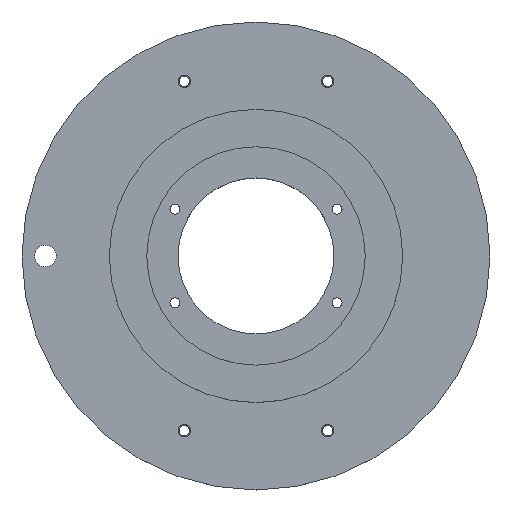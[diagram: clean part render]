
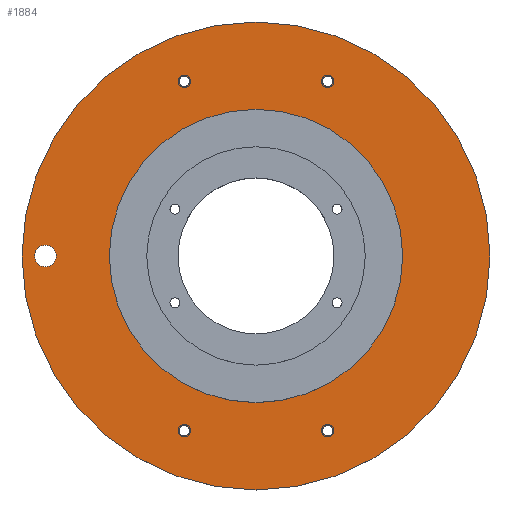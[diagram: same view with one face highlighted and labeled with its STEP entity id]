
A CAD part, top view. The second image highlights one B-rep face of the part: STEP entity #1884.
In plain terms, the highlighted planar face has unit normal (0, 0, 1).
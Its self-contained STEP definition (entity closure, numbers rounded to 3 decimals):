
#655=CARTESIAN_POINT('',(0.,0.,-13.));
#656=DIRECTION('',(0.,0.,1.));
#657=DIRECTION('',(0.,1.,0.));
#658=AXIS2_PLACEMENT_3D('',#655,#656,#657);
#663=CARTESIAN_POINT('',(0.,0.,-13.));
#664=DIRECTION('',(0.,0.,-1.));
#665=DIRECTION('',(0.,1.,0.));
#666=AXIS2_PLACEMENT_3D('',#663,#664,#665);
#671=CARTESIAN_POINT('',(-23.,-56.,-13.));
#672=DIRECTION('',(0.,0.,-1.));
#673=DIRECTION('',(1.,0.,0.));
#674=AXIS2_PLACEMENT_3D('',#671,#672,#673);
#679=CARTESIAN_POINT('',(-23.,-56.,-13.));
#680=DIRECTION('',(0.,0.,-1.));
#681=DIRECTION('',(-1.,0.,0.));
#682=AXIS2_PLACEMENT_3D('',#679,#680,#681);
#687=CARTESIAN_POINT('',(-23.,56.,-13.));
#688=DIRECTION('',(0.,0.,-1.));
#689=DIRECTION('',(1.,0.,0.));
#690=AXIS2_PLACEMENT_3D('',#687,#688,#689);
#695=CARTESIAN_POINT('',(-23.,56.,-13.));
#696=DIRECTION('',(0.,0.,-1.));
#697=DIRECTION('',(-1.,0.,0.));
#698=AXIS2_PLACEMENT_3D('',#695,#696,#697);
#703=CARTESIAN_POINT('',(23.,-56.,-13.));
#704=DIRECTION('',(0.,0.,-1.));
#705=DIRECTION('',(1.,0.,0.));
#706=AXIS2_PLACEMENT_3D('',#703,#704,#705);
#711=CARTESIAN_POINT('',(23.,-56.,-13.));
#712=DIRECTION('',(0.,0.,-1.));
#713=DIRECTION('',(-1.,0.,0.));
#714=AXIS2_PLACEMENT_3D('',#711,#712,#713);
#719=CARTESIAN_POINT('',(23.,56.,-13.));
#720=DIRECTION('',(0.,0.,-1.));
#721=DIRECTION('',(1.,0.,0.));
#722=AXIS2_PLACEMENT_3D('',#719,#720,#721);
#727=CARTESIAN_POINT('',(23.,56.,-13.));
#728=DIRECTION('',(0.,0.,-1.));
#729=DIRECTION('',(-1.,0.,0.));
#730=AXIS2_PLACEMENT_3D('',#727,#728,#729);
#735=CARTESIAN_POINT('',(-67.5,0.,-13.));
#736=DIRECTION('',(0.,0.,-1.));
#737=DIRECTION('',(0.,1.,0.));
#738=AXIS2_PLACEMENT_3D('',#735,#736,#737);
#743=CARTESIAN_POINT('',(-67.5,0.,-13.));
#744=DIRECTION('',(0.,0.,-1.));
#745=DIRECTION('',(0.,-1.,0.));
#746=AXIS2_PLACEMENT_3D('',#743,#744,#745);
#759=CARTESIAN_POINT('',(0.,0.,-13.));
#760=DIRECTION('',(0.,0.,-1.));
#761=DIRECTION('',(0.,1.,0.));
#762=AXIS2_PLACEMENT_3D('',#759,#760,#761);
#812=CARTESIAN_POINT('',(0.,0.,-13.));
#813=DIRECTION('',(0.,0.,-1.));
#814=DIRECTION('',(0.,-1.,0.));
#815=AXIS2_PLACEMENT_3D('',#812,#813,#814);
#1437=CARTESIAN_POINT('',(-21.35,-56.,-13.));
#1439=VERTEX_POINT('',#1437);
#1441=CARTESIAN_POINT('',(-24.65,-56.,-13.));
#1443=VERTEX_POINT('',#1441);
#1462=CARTESIAN_POINT('',(0.,47.,-13.));
#1464=VERTEX_POINT('',#1462);
#1466=CARTESIAN_POINT('',(0.,-47.,-13.));
#1468=VERTEX_POINT('',#1466);
#1473=CARTESIAN_POINT('',(0.,75.,-13.));
#1474=CARTESIAN_POINT('',(0.,-75.,-13.));
#1475=VERTEX_POINT('',#1473);
#1476=VERTEX_POINT('',#1474);
#1553=CARTESIAN_POINT('',(-21.35,56.,-13.));
#1554=CARTESIAN_POINT('',(-24.65,56.,-13.));
#1555=VERTEX_POINT('',#1553);
#1556=VERTEX_POINT('',#1554);
#1561=CARTESIAN_POINT('',(24.65,-56.,-13.));
#1562=CARTESIAN_POINT('',(21.35,-56.,-13.));
#1563=VERTEX_POINT('',#1561);
#1564=VERTEX_POINT('',#1562);
#1569=CARTESIAN_POINT('',(24.65,56.,-13.));
#1570=CARTESIAN_POINT('',(21.35,56.,-13.));
#1571=VERTEX_POINT('',#1569);
#1572=VERTEX_POINT('',#1570);
#1621=CARTESIAN_POINT('',(-67.5,3.5,-13.));
#1622=CARTESIAN_POINT('',(-67.5,-3.5,-13.));
#1623=VERTEX_POINT('',#1621);
#1624=VERTEX_POINT('',#1622);
#1839=CARTESIAN_POINT('',(0.,0.,-13.));
#1840=DIRECTION('',(0.,0.,1.));
#1841=DIRECTION('',(0.,1.,0.));
#1842=AXIS2_PLACEMENT_3D('',#1839,#1840,#1841);
#1843=PLANE('',#1842);
#1845=ORIENTED_EDGE('',*,*,#1844,.T.);
#1847=ORIENTED_EDGE('',*,*,#1846,.T.);
#1848=EDGE_LOOP('',(#1845,#1847));
#1849=FACE_OUTER_BOUND('',#1848,.F.);
#1850=ORIENTED_EDGE('',*,*,#1834,.T.);
#1851=ORIENTED_EDGE('',*,*,#1818,.F.);
#1852=EDGE_LOOP('',(#1850,#1851));
#1853=FACE_BOUND('',#1852,.F.);
#1855=ORIENTED_EDGE('',*,*,#1854,.F.);
#1857=ORIENTED_EDGE('',*,*,#1856,.F.);
#1858=EDGE_LOOP('',(#1855,#1857));
#1859=FACE_BOUND('',#1858,.F.);
#1861=ORIENTED_EDGE('',*,*,#1860,.F.);
#1863=ORIENTED_EDGE('',*,*,#1862,.F.);
#1864=EDGE_LOOP('',(#1861,#1863));
#1865=FACE_BOUND('',#1864,.F.);
#1867=ORIENTED_EDGE('',*,*,#1866,.F.);
#1869=ORIENTED_EDGE('',*,*,#1868,.F.);
#1870=EDGE_LOOP('',(#1867,#1869));
#1871=FACE_BOUND('',#1870,.F.);
#1873=ORIENTED_EDGE('',*,*,#1872,.F.);
#1875=ORIENTED_EDGE('',*,*,#1874,.F.);
#1876=EDGE_LOOP('',(#1873,#1875));
#1877=FACE_BOUND('',#1876,.F.);
#1879=ORIENTED_EDGE('',*,*,#1878,.F.);
#1881=ORIENTED_EDGE('',*,*,#1880,.F.);
#1882=EDGE_LOOP('',(#1879,#1881));
#1883=FACE_BOUND('',#1882,.F.);
#659=CIRCLE('',#658,47.);
#667=CIRCLE('',#666,47.);
#675=CIRCLE('',#674,1.65);
#683=CIRCLE('',#682,1.65);
#691=CIRCLE('',#690,1.65);
#699=CIRCLE('',#698,1.65);
#707=CIRCLE('',#706,1.65);
#715=CIRCLE('',#714,1.65);
#723=CIRCLE('',#722,1.65);
#731=CIRCLE('',#730,1.65);
#739=CIRCLE('',#738,3.5);
#747=CIRCLE('',#746,3.5);
#763=CIRCLE('',#762,75.);
#816=CIRCLE('',#815,75.);
#1818=EDGE_CURVE('',#1464,#1468,#667,.T.);
#1834=EDGE_CURVE('',#1464,#1468,#659,.T.);
#1844=EDGE_CURVE('',#1475,#1476,#763,.T.);
#1846=EDGE_CURVE('',#1476,#1475,#816,.T.);
#1854=EDGE_CURVE('',#1439,#1443,#675,.T.);
#1856=EDGE_CURVE('',#1443,#1439,#683,.T.);
#1860=EDGE_CURVE('',#1555,#1556,#691,.T.);
#1862=EDGE_CURVE('',#1556,#1555,#699,.T.);
#1866=EDGE_CURVE('',#1563,#1564,#707,.T.);
#1868=EDGE_CURVE('',#1564,#1563,#715,.T.);
#1872=EDGE_CURVE('',#1571,#1572,#723,.T.);
#1874=EDGE_CURVE('',#1572,#1571,#731,.T.);
#1878=EDGE_CURVE('',#1623,#1624,#739,.T.);
#1880=EDGE_CURVE('',#1624,#1623,#747,.T.);
#1884=ADVANCED_FACE('',(#1849,#1853,#1859,#1865,#1871,#1877,#1883),#1843,.T.);
